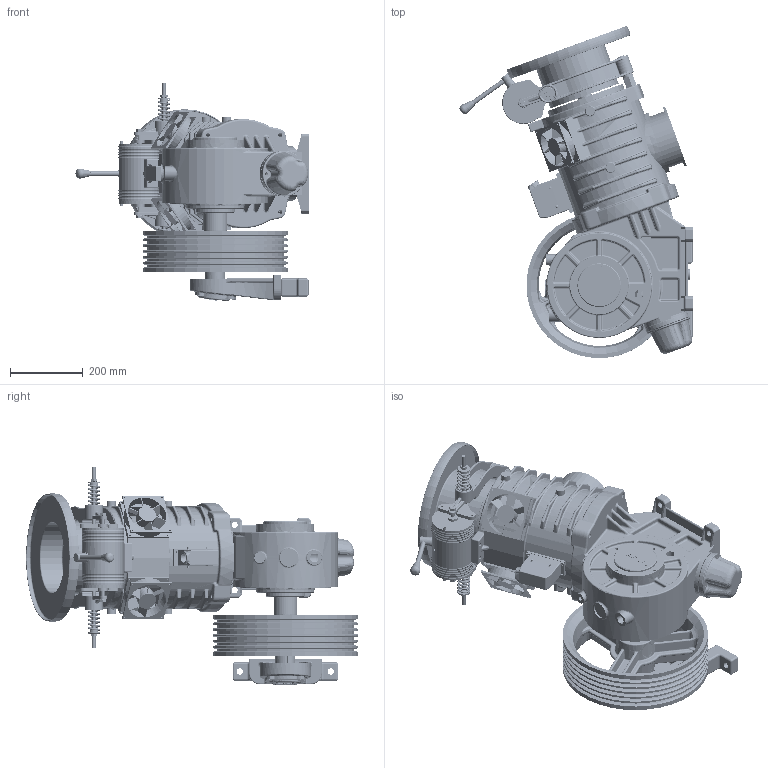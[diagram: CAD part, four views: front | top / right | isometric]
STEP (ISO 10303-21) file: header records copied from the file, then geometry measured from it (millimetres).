
FILE_DESCRIPTION (( 'STEP AP214' ), '1' );
FILE_NAME ('ELP75063.STEP', '2025-10-02T08:51:44', ( '' ), ( '' ), 'SwSTEP 2.0', 'SolidWorks 2023', '' );
FILE_SCHEMA (( 'AUTOMOTIVE_DESIGN' ));
Length unit declared in the file: millimetre
Products named in the file (1): ELP75063
Bounding box: 640.47 x 911.71 x 600.2 mm (x, y, z)
Volume: 40044510 mm3; surface area: 4865786.3 mm2
Topology: 89 solids, 103 shells, 6279 faces, 15113 edges, 8958 vertices
Faces by surface type: cylinder 2345, plane 1450, bspline 1102, torus 639, cone 392, sphere 351
Entity records: 245231 total; most frequent: CARTESIAN_POINT 104900, ORIENTED_EDGE 29576, DIRECTION 29195, EDGE_CURVE 14788, AXIS2_PLACEMENT_3D 12167, VERTEX_POINT 8921, CIRCLE 6989, EDGE_LOOP 6893
